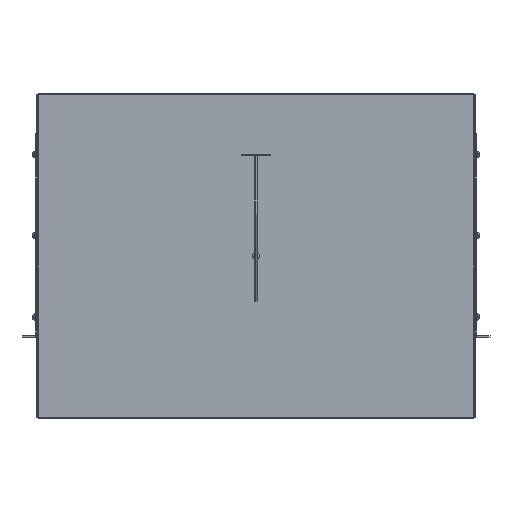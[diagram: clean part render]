
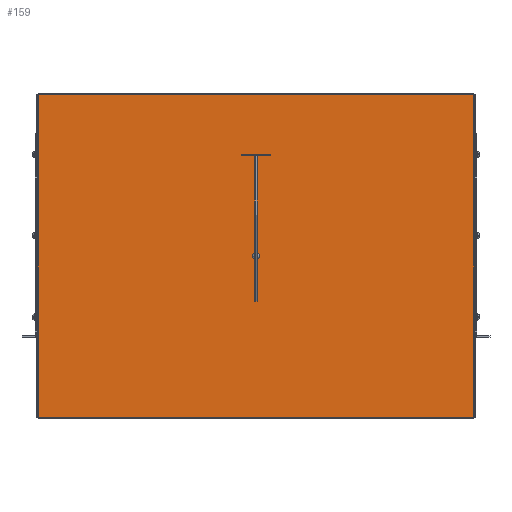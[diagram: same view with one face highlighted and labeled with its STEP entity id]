
A CAD part, top view. The second image highlights one B-rep face of the part: STEP entity #159.
In plain terms, the highlighted planar face has unit normal (0, 0, 1).
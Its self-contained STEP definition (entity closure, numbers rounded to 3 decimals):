
#159 = ADVANCED_FACE( '', ( #359 ), #360, .T. );
#359 = FACE_OUTER_BOUND( '', #660, .T. );
#360 = PLANE( '', #661 );
#660 = EDGE_LOOP( '', ( #1123, #1124, #1125, #1126 ) );
#661 = AXIS2_PLACEMENT_3D( '', #1127, #1128, #1129 );
#1123 = ORIENTED_EDGE( '', *, *, #1782, .F. );
#1124 = ORIENTED_EDGE( '', *, *, #1795, .F. );
#1125 = ORIENTED_EDGE( '', *, *, #1796, .F. );
#1126 = ORIENTED_EDGE( '', *, *, #1797, .F. );
#1127 = CARTESIAN_POINT( '', ( -273.837, -203.2, 1.448 ) );
#1128 = DIRECTION( '', ( 0., 0., 1. ) );
#1129 = DIRECTION( '', ( 1., 0., 0. ) );
#1782 = EDGE_CURVE( '', #2166, #2201, #2202, .T. );
#1795 = EDGE_CURVE( '', #2099, #2166, #2221, .T. );
#1796 = EDGE_CURVE( '', #2113, #2099, #2222, .T. );
#1797 = EDGE_CURVE( '', #2201, #2113, #2223, .T. );
#2099 = VERTEX_POINT( '', #2919 );
#2113 = VERTEX_POINT( '', #2937 );
#2166 = VERTEX_POINT( '', #3014 );
#2201 = VERTEX_POINT( '', #3070 );
#2202 = LINE( '', #3071, #3072 );
#2221 = LINE( '', #3096, #3097 );
#2222 = LINE( '', #3098, #3099 );
#2223 = LINE( '', #3100, #3101 );
#2919 = CARTESIAN_POINT( '', ( 271.653, -201.016, 1.448 ) );
#2937 = CARTESIAN_POINT( '', ( 271.653, 201.016, 1.448 ) );
#3014 = CARTESIAN_POINT( '', ( -271.653, -201.016, 1.448 ) );
#3070 = CARTESIAN_POINT( '', ( -271.653, 201.016, 1.448 ) );
#3071 = CARTESIAN_POINT( '', ( -271.653, -201.016, 1.448 ) );
#3072 = VECTOR( '', #3642, 1000. );
#3096 = CARTESIAN_POINT( '', ( 273.837, -201.016, 1.448 ) );
#3097 = VECTOR( '', #3660, 1000. );
#3098 = CARTESIAN_POINT( '', ( 271.653, 201.016, 1.448 ) );
#3099 = VECTOR( '', #3661, 1000. );
#3100 = CARTESIAN_POINT( '', ( -273.837, 201.016, 1.448 ) );
#3101 = VECTOR( '', #3662, 1000. );
#3642 = DIRECTION( '', ( 0., 1., 0. ) );
#3660 = DIRECTION( '', ( -1., 0., 0. ) );
#3661 = DIRECTION( '', ( 0., -1., 0. ) );
#3662 = DIRECTION( '', ( 1., 0., 0. ) );
